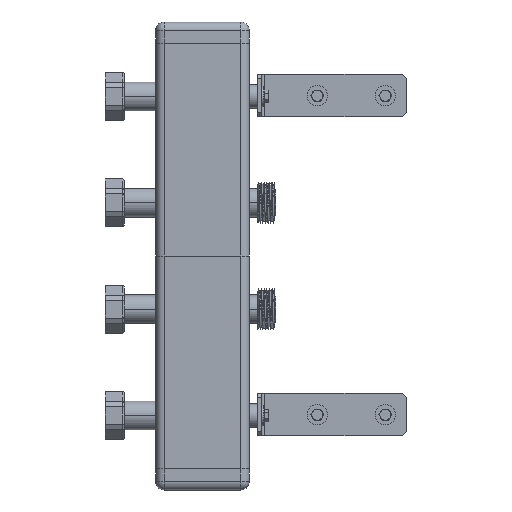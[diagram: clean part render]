
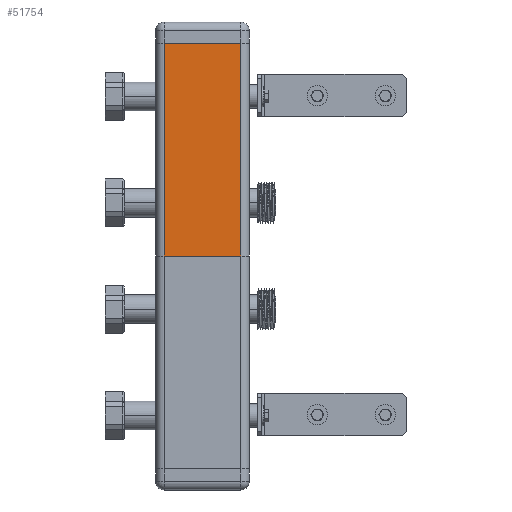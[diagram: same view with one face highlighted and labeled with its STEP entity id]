
A CAD part, left-side view. The second image highlights one B-rep face of the part: STEP entity #51754.
In plain terms, the highlighted planar face has unit normal (-1, 0, 0) as drawn and (0, -1, 0) by its records, which use the part's own axes.
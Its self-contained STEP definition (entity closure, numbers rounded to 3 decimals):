
#49896=DIRECTION('',(1.,0.,0.));
#49897=VECTOR('',#49896,90.);
#49898=CARTESIAN_POINT('',(-100.,0.,15.));
#49899=LINE('',#49898,#49897);
#49964=DIRECTION('',(0.,0.,-1.));
#49965=VECTOR('',#49964,250.);
#49966=CARTESIAN_POINT('',(-100.,0.,265.));
#49967=LINE('',#49966,#49965);
#49968=DIRECTION('',(1.,0.,0.));
#49969=VECTOR('',#49968,90.);
#49970=CARTESIAN_POINT('',(-100.,0.,265.));
#49971=LINE('',#49970,#49969);
#49972=DIRECTION('',(0.,0.,1.));
#49973=VECTOR('',#49972,250.);
#49974=CARTESIAN_POINT('',(-10.,0.,15.));
#49975=LINE('',#49974,#49973);
#50339=CARTESIAN_POINT('',(-10.,0.,265.));
#50340=VERTEX_POINT('',#50339);
#50341=CARTESIAN_POINT('',(-100.,0.,265.));
#50342=VERTEX_POINT('',#50341);
#50451=CARTESIAN_POINT('',(-100.,0.,15.));
#50452=VERTEX_POINT('',#50451);
#50453=CARTESIAN_POINT('',(-10.,0.,15.));
#50454=VERTEX_POINT('',#50453);
#51742=CARTESIAN_POINT('',(-110.,0.,0.));
#51743=DIRECTION('',(0.,-1.,0.));
#51744=DIRECTION('',(1.,0.,0.));
#51745=AXIS2_PLACEMENT_3D('',#51742,#51743,#51744);
#51746=PLANE('',#51745);
#51747=ORIENTED_EDGE('',*,*,#51652,.F.);
#51748=ORIENTED_EDGE('',*,*,#51737,.F.);
#51749=ORIENTED_EDGE('',*,*,#51095,.T.);
#51751=ORIENTED_EDGE('',*,*,#51750,.F.);
#51752=EDGE_LOOP('',(#51747,#51748,#51749,#51751));
#51753=FACE_OUTER_BOUND('',#51752,.F.);
#51754=ADVANCED_FACE('',(#51753),#51746,.T.);
#51095=EDGE_CURVE('',#50342,#50340,#49971,.T.);
#51652=EDGE_CURVE('',#50452,#50454,#49899,.T.);
#51737=EDGE_CURVE('',#50342,#50452,#49967,.T.);
#51750=EDGE_CURVE('',#50454,#50340,#49975,.T.);
